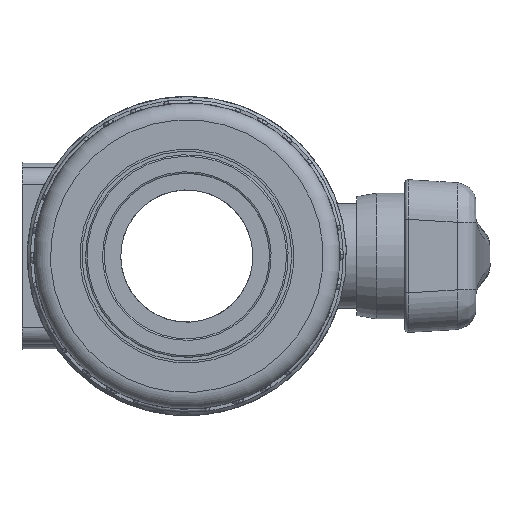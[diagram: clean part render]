
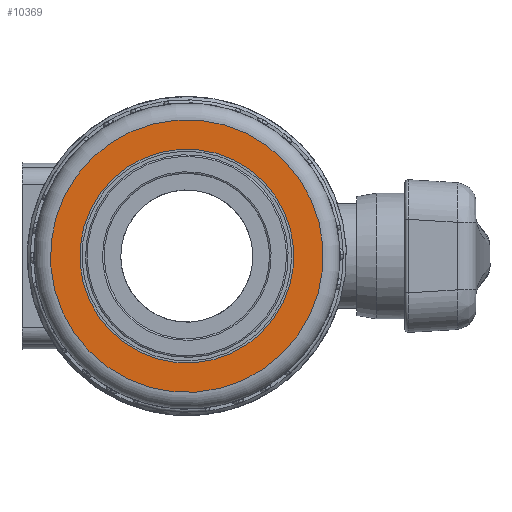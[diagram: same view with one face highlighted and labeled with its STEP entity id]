
A CAD part, front view. The second image highlights one B-rep face of the part: STEP entity #10369.
In plain terms, the highlighted planar face has unit normal (0, -1, 0).
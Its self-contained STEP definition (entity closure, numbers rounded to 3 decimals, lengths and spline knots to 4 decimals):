
#824=FACE_BOUND('',#1923,.T.);
#1254=FACE_OUTER_BOUND('',#1922,.T.);
#1922=EDGE_LOOP('',(#8022));
#1923=EDGE_LOOP('',(#8023));
#2508=CIRCLE('',#11243,4.125);
#2509=CIRCLE('',#11244,3.235);
#4478=VERTEX_POINT('',#40370);
#4479=VERTEX_POINT('',#40372);
#5737=EDGE_CURVE('',#4478,#4478,#2508,.T.);
#5738=EDGE_CURVE('',#4479,#4479,#2509,.T.);
#8022=ORIENTED_EDGE('',*,*,#5737,.F.);
#8023=ORIENTED_EDGE('',*,*,#5738,.T.);
#9282=PLANE('',#11242);
#10369=ADVANCED_FACE('',(#1254,#824),#9282,.T.);
#11242=AXIS2_PLACEMENT_3D('',#40369,#13270,#13271);
#11243=AXIS2_PLACEMENT_3D('',#40371,#13272,#13273);
#11244=AXIS2_PLACEMENT_3D('',#40373,#13274,#13275);
#13270=DIRECTION('center_axis',(0.,-1.,0.));
#13271=DIRECTION('ref_axis',(0.586,0.,0.811));
#13272=DIRECTION('center_axis',(0.,1.,0.));
#13273=DIRECTION('ref_axis',(-0.811,0.,0.586));
#13274=DIRECTION('center_axis',(0.,1.,0.));
#13275=DIRECTION('ref_axis',(-0.811,0.,0.586));
#40369=CARTESIAN_POINT('Origin',(3.3438,-5.085,-2.4155));
#40370=CARTESIAN_POINT('',(3.3438,-5.085,-2.4155));
#40371=CARTESIAN_POINT('Origin',(0.,-5.085,0.));
#40372=CARTESIAN_POINT('',(2.6223,-5.085,-1.8944));
#40373=CARTESIAN_POINT('Origin',(0.,-5.085,0.));
